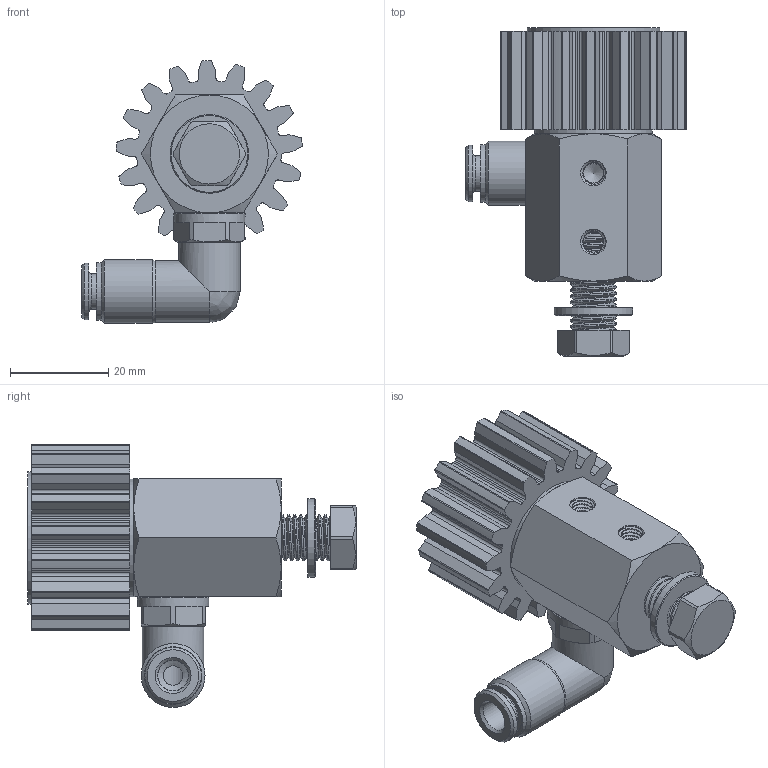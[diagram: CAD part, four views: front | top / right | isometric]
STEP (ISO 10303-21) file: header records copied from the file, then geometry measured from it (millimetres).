
FILE_DESCRIPTION (( 'STEP AP214' ), '1' );
FILE_NAME ('012_13_02_20_17BZ.STEP', '2026-04-08T12:29:21', ( '' ), ( '' ), 'SwSTEP 2.0', 'SolidWorks 2022', '' );
FILE_SCHEMA (( 'AUTOMOTIVE_DESIGN' ));
Length unit declared in the file: millimetre
Products named in the file (13): RH202242; DR6-C_HDX_25.07.16_1; Schmierzahnrad_02_20_17_G; 012_13b_01_winklige_Achse_lang_M8_1; U_Scheibe_8,4; 12012_06_01_Scheibe-CRS-VA_27.SLDASM; OR 7.2X1.9_1; H202242_HDS022_6_M10X1_08.05.17(1); 12012_06_00_Scheibe-CRS-VA.SLDASM; 012_13_02_20_17BZ; Schraube_M8_20; 012_06_Senkschraube; RIVOLUZIONE_0_2
Assembly tree (12 placements, depth 3):
  012_13_02_20_17BZ
    012_13b_01_winklige_Achse_lang_M8_1
    Schraube_M8_20
    U_Scheibe_8,4
    H202242_HDS022_6_M10X1_08.05.17(1)
      OR 7.2X1.9_1
      RH202242
      DR6-C_HDX_25.07.16_1
      RIVOLUZIONE_0_2
    12012_06_00_Scheibe-CRS-VA.SLDASM
    12012_06_01_Scheibe-CRS-VA_27.SLDASM
    012_06_Senkschraube
    Schmierzahnrad_02_20_17_G
Bounding box: 44.92 x 66.9 x 53.5 mm (x, y, z)
Volume: 38098.1 mm3; surface area: 19782.9 mm2
Topology: 11 solids, 11 shells, 734 faces, 2013 edges, 1335 vertices
Faces by surface type: plane 420, cylinder 141, bspline 116, cone 54, torus 3
Full cylindrical faces by diameter (mm): 3 x1, 4 x2, 5.5 x1, 6 x1, 6.2 x1, 6.3 x1, 6.5 x1, 7.2 x1, 8.4 x1, 8.5 x1, 9 x10, 9.9 x1, 10 x3, 10.1 x2, 10.3 x1, 11.5 x1, 11.7 x1, 12.5 x2, 13 x1, 14.5 x1, 16 x1, 24 x1, 27 x1
Entity records: 45195 total; most frequent: CARTESIAN_POINT 26869, ORIENTED_EDGE 3730, DIRECTION 3063, EDGE_CURVE 1865, VERTEX_POINT 1270, VECTOR 1181, LINE 1181, AXIS2_PLACEMENT_3D 941
